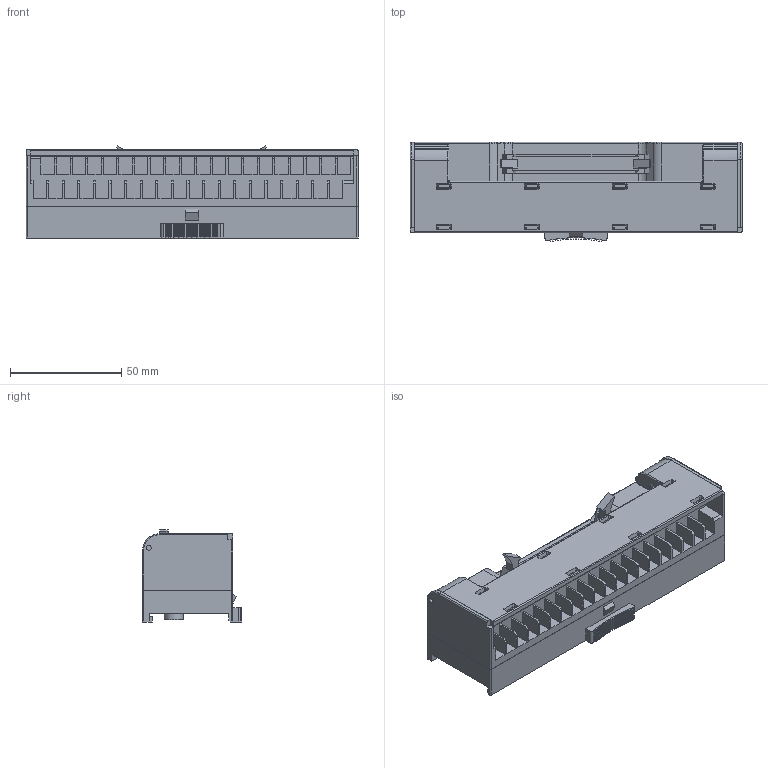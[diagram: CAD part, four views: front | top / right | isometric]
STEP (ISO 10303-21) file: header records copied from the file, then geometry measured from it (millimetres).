
FILE_DESCRIPTION(/* description */ (''),/* implementation_level */ '2;1');
FILE_NAME(/* name */ 'XTB-40H.stp',/* time_stamp */ '2015-06-06T14:07:25+09:00',/* author */ (''),/* organization */ (''),/* preprocessor_version */ 'ST-DEVELOPER v11',/* originating_system */ 'SIEMENS UGS NX 6.0',/* authorisation */ '');
FILE_SCHEMA (('CONFIG_CONTROL_DESIGN'));
Length unit declared in the file: millimetre
Products named in the file (1): ksleB219ia6k
Bounding box: 149 x 44.46 x 41.29 mm (x, y, z)
Volume: 153376.5 mm3; surface area: 46425.6 mm2
Topology: 1 solids, 1 shells, 689 faces, 1918 edges, 1233 vertices
Faces by surface type: plane 492, cylinder 131, extrusion 32, torus 24, bspline 8, sphere 2
Full cylindrical faces by diameter (mm): 2.2 x2, 4.5 x3, 8 x2, 8.5 x2
Entity records: 22593 total; most frequent: CARTESIAN_POINT 4711, ORIENTED_EDGE 3808, DIRECTION 3524, EDGE_CURVE 1904, VECTOR 1592, LINE 1560, VERTEX_POINT 1232, AXIS2_PLACEMENT_3D 966
